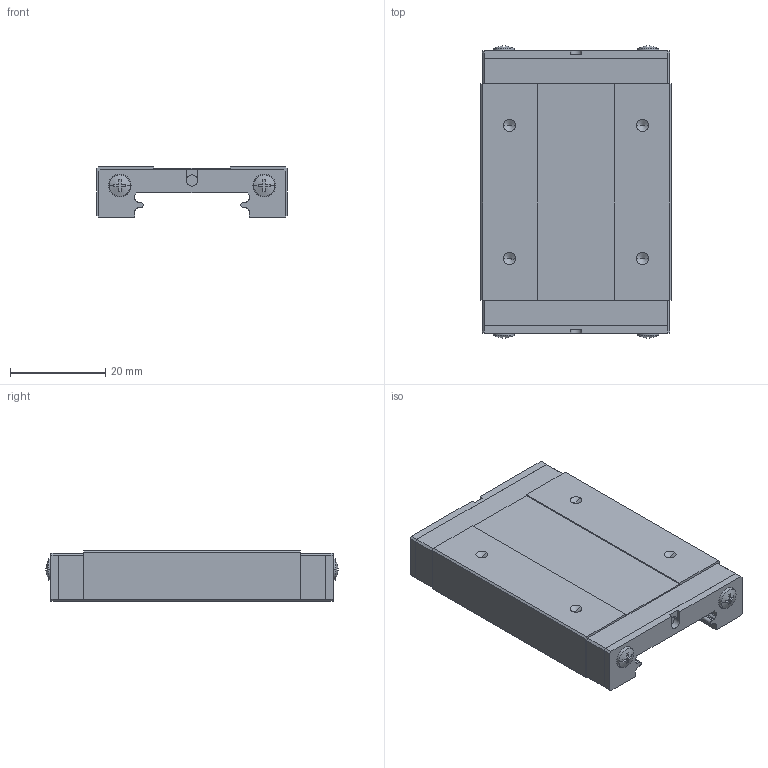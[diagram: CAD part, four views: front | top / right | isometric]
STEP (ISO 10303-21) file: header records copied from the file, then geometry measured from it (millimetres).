
FILE_DESCRIPTION(('no description'),'unknown implementation level');
FILE_NAME('MGW12H_ZF_H_M_SS_54.stp',' ',('HIWIN GmbH'),('CADClick - KiM GmbH - www.kimweb.de'),'unknown preprocess','ACIS','unknown authorization');
FILE_SCHEMA(('automotive_design'));
Length unit declared in the file: millimetre
Products named in the file (1): MGW12H ZF H M SS
Bounding box: 40 x 61.57 x 10.6 mm (x, y, z)
Volume: 17596.4 mm3; surface area: 7643.7 mm2
Topology: 1 solids, 3 shells, 194 faces, 528 edges, 344 vertices
Faces by surface type: plane 134, cylinder 32, cone 28
Entity records: 11860 total; most frequent: CARTESIAN_POINT 1171, STYLED_ITEM 1059, PRESENTATION_STYLE_ASSIGNMENT 1059, COLOUR_RGB 1059, ORIENTED_EDGE 1040, DIRECTION 950, EDGE_CURVE 520, CURVE_STYLE 520
